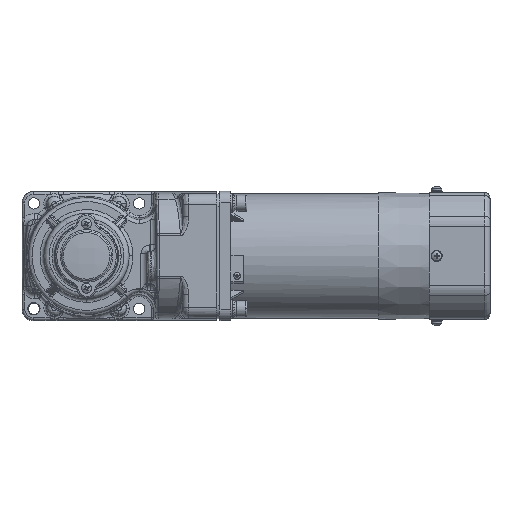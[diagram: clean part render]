
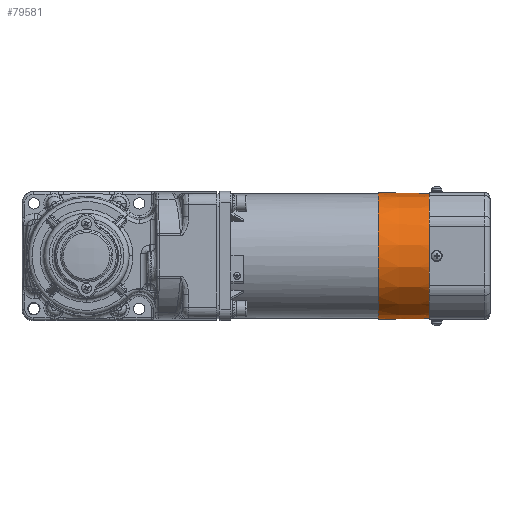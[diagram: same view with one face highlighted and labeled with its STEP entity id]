
A CAD part, top view. The second image highlights one B-rep face of the part: STEP entity #79581.
In plain terms, the highlighted conical face has half-angle 1.005 degrees and reference radius 51 mm.
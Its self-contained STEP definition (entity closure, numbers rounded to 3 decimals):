
#1683 = DIRECTION ( 'NONE',  ( -1., 0., -0.018 ) ) ;
#2047 = VECTOR ( 'NONE', #1683, 1000. ) ;
#4058 = CARTESIAN_POINT ( 'NONE',  ( 45.483, -7.584, 306. ) ) ;
#4656 = CARTESIAN_POINT ( 'NONE',  ( 45.483, -7.584, 255. ) ) ;
#5368 = CARTESIAN_POINT ( 'NONE',  ( 67.784, -10.586, 204.479 ) ) ;
#7066 = EDGE_CURVE ( 'NONE', #58731, #9078, #33540, .T. ) ;
#7777 = CARTESIAN_POINT ( 'NONE',  ( 45.483, -7.584, 204. ) ) ;
#9078 = VERTEX_POINT ( 'NONE', #42310 ) ;
#10421 = EDGE_CURVE ( 'NONE', #9078, #49076, #53675, .T. ) ;
#10945 = ORIENTED_EDGE ( 'NONE', *, *, #31819, .F. ) ;
#11395 = VERTEX_POINT ( 'NONE', #71994 ) ;
#11475 = CARTESIAN_POINT ( 'NONE',  ( 69.233, -7.832, 204.417 ) ) ;
#12303 = CARTESIAN_POINT ( 'NONE',  ( 68.462, -9.876, 204.455 ) ) ;
#12692 = CARTESIAN_POINT ( 'NONE',  ( 69.041, -8.795, 204.427 ) ) ;
#15175 = CARTESIAN_POINT ( 'NONE',  ( 64.273, -11.142, 204.455 ) ) ;
#15597 = VECTOR ( 'NONE', #52386, 1000. ) ;
#15955 = CARTESIAN_POINT ( 'NONE',  ( 64.99, -11.31, 204.479 ) ) ;
#17490 = EDGE_CURVE ( 'NONE', #74231, #11395, #30646, .T. ) ;
#17569 = CARTESIAN_POINT ( 'NONE',  ( 68.307, -10.064, 204.461 ) ) ;
#18779 = CARTESIAN_POINT ( 'NONE',  ( 69.209, -8.077, 204.418 ) ) ;
#20653 = LINE ( 'NONE', #21871, #15597 ) ;
#21282 = CARTESIAN_POINT ( 'NONE',  ( 62.658, -10.062, 204.362 ) ) ;
#21871 = CARTESIAN_POINT ( 'NONE',  ( 45.483, -7.584, 204. ) ) ;
#22015 = AXIS2_PLACEMENT_3D ( 'NONE', #76747, #46260, #75976 ) ;
#23692 = CARTESIAN_POINT ( 'NONE',  ( 68.736, -9.466, 204.443 ) ) ;
#24481 = CARTESIAN_POINT ( 'NONE',  ( 95.783, -7.584, 204.882 ) ) ;
#28318 = ORIENTED_EDGE ( 'NONE', *, *, #7066, .T. ) ;
#29394 = CARTESIAN_POINT ( 'NONE',  ( 61.757, -8.073, 204.287 ) ) ;
#29825 = DIRECTION ( 'NONE',  ( 0., 0., 1. ) ) ;
#30173 = CARTESIAN_POINT ( 'NONE',  ( 65.972, -11.31, 204.497 ) ) ;
#30646 = B_SPLINE_CURVE_WITH_KNOTS ( 'NONE', 3,
 ( #78609, #40374, #29394, #52983, #46872, #77786, #70907, #76986, #21282, #46094, #71690, #15175, #40787, #15955, #64777, #33867, #30173, #37486, #60703, #61079, #5368, #17569, #12303, #23692, #74082, #12692, #37102, #18779, #11475, #73300 ),
 .UNSPECIFIED., .F., .F.,
 ( 4, 2, 2, 2, 2, 2, 2, 2, 2, 2, 2, 2, 2, 2, 4 ),
 ( 0., 0.062, 0.125, 0.187, 0.25, 0.375, 0.437, 0.5, 0.562, 0.625, 0.75, 0.813, 0.875, 0.938, 1. ),
 .UNSPECIFIED. ) ;
#31819 = EDGE_CURVE ( 'NONE', #58731, #11395, #20653, .T. ) ;
#32662 = CARTESIAN_POINT ( 'NONE',  ( 45.483, -7.584, 204. ) ) ;
#32787 = CARTESIAN_POINT ( 'NONE',  ( 95.783, -7.584, 255. ) ) ;
#33540 = CIRCLE ( 'NONE', #43943, 50.118 ) ;
#33867 = CARTESIAN_POINT ( 'NONE',  ( 65.726, -11.334, 204.494 ) ) ;
#37102 = CARTESIAN_POINT ( 'NONE',  ( 69.112, -8.563, 204.423 ) ) ;
#37486 = CARTESIAN_POINT ( 'NONE',  ( 66.453, -11.215, 204.498 ) ) ;
#39286 = DIRECTION ( 'NONE',  ( 0., 0., 1. ) ) ;
#39403 = ORIENTED_EDGE ( 'NONE', *, *, #10421, .T. ) ;
#40374 = CARTESIAN_POINT ( 'NONE',  ( 61.733, -7.83, 204.285 ) ) ;
#40729 = EDGE_LOOP ( 'NONE', ( #10945, #28318, #39403, #58435, #73522, #54707 ) ) ;
#40787 = CARTESIAN_POINT ( 'NONE',  ( 64.509, -11.214, 204.464 ) ) ;
#42310 = CARTESIAN_POINT ( 'NONE',  ( 95.783, -7.584, 305.118 ) ) ;
#43943 = AXIS2_PLACEMENT_3D ( 'NONE', #32787, #51511, #39286 ) ;
#46094 = CARTESIAN_POINT ( 'NONE',  ( 63.179, -10.583, 204.398 ) ) ;
#46260 = DIRECTION ( 'NONE',  ( -1., 0., 0. ) ) ;
#46748 = DIRECTION ( 'NONE',  ( -1., 0., 0.018 ) ) ;
#46872 = CARTESIAN_POINT ( 'NONE',  ( 61.925, -8.794, 204.302 ) ) ;
#47146 = VECTOR ( 'NONE', #46748, 1000. ) ;
#47203 = CARTESIAN_POINT ( 'NONE',  ( 45.483, -7.584, 306. ) ) ;
#49076 = VERTEX_POINT ( 'NONE', #47203 ) ;
#51511 = DIRECTION ( 'NONE',  ( -1., 0., 0. ) ) ;
#51852 = CONICAL_SURFACE ( 'NONE', #22015, 51., 0.018 ) ;
#52386 = DIRECTION ( 'NONE',  ( -1., 0., -0.018 ) ) ;
#52983 = CARTESIAN_POINT ( 'NONE',  ( 61.853, -8.557, 204.296 ) ) ;
#53675 = LINE ( 'NONE', #4058, #47146 ) ;
#54707 = ORIENTED_EDGE ( 'NONE', *, *, #17490, .T. ) ;
#57461 = EDGE_CURVE ( 'NONE', #74231, #68343, #77977, .T. ) ;
#58435 = ORIENTED_EDGE ( 'NONE', *, *, #75504, .T. ) ;
#58731 = VERTEX_POINT ( 'NONE', #24481 ) ;
#60703 = CARTESIAN_POINT ( 'NONE',  ( 66.687, -11.144, 204.497 ) ) ;
#61079 = CARTESIAN_POINT ( 'NONE',  ( 67.37, -10.862, 204.49 ) ) ;
#64551 = CARTESIAN_POINT ( 'NONE',  ( 61.733, -7.584, 204.285 ) ) ;
#64777 = CARTESIAN_POINT ( 'NONE',  ( 65.233, -11.334, 204.485 ) ) ;
#64945 = FACE_OUTER_BOUND ( 'NONE', #40729, .T. ) ;
#68343 = VERTEX_POINT ( 'NONE', #32662 ) ;
#68348 = CIRCLE ( 'NONE', #80045, 51. ) ;
#70907 = CARTESIAN_POINT ( 'NONE',  ( 62.227, -9.461, 204.328 ) ) ;
#71690 = CARTESIAN_POINT ( 'NONE',  ( 63.591, -10.859, 204.423 ) ) ;
#71994 = CARTESIAN_POINT ( 'NONE',  ( 69.233, -7.584, 204.417 ) ) ;
#73300 = CARTESIAN_POINT ( 'NONE',  ( 69.233, -7.584, 204.417 ) ) ;
#73522 = ORIENTED_EDGE ( 'NONE', *, *, #57461, .F. ) ;
#74082 = CARTESIAN_POINT ( 'NONE',  ( 68.853, -9.248, 204.437 ) ) ;
#74231 = VERTEX_POINT ( 'NONE', #64551 ) ;
#75504 = EDGE_CURVE ( 'NONE', #49076, #68343, #68348, .T. ) ;
#75976 = DIRECTION ( 'NONE',  ( 0., 0., 1. ) ) ;
#76747 = CARTESIAN_POINT ( 'NONE',  ( 45.483, -7.584, 255. ) ) ;
#76986 = CARTESIAN_POINT ( 'NONE',  ( 62.501, -9.871, 204.35 ) ) ;
#77786 = CARTESIAN_POINT ( 'NONE',  ( 62.113, -9.247, 204.319 ) ) ;
#77977 = LINE ( 'NONE', #7777, #2047 ) ;
#78254 = DIRECTION ( 'NONE',  ( 1., 0., 0. ) ) ;
#78609 = CARTESIAN_POINT ( 'NONE',  ( 61.733, -7.584, 204.285 ) ) ;
#79581 = ADVANCED_FACE ( 'NONE', ( #64945 ), #51852, .T. ) ;
#80045 = AXIS2_PLACEMENT_3D ( 'NONE', #4656, #78254, #29825 ) ;
